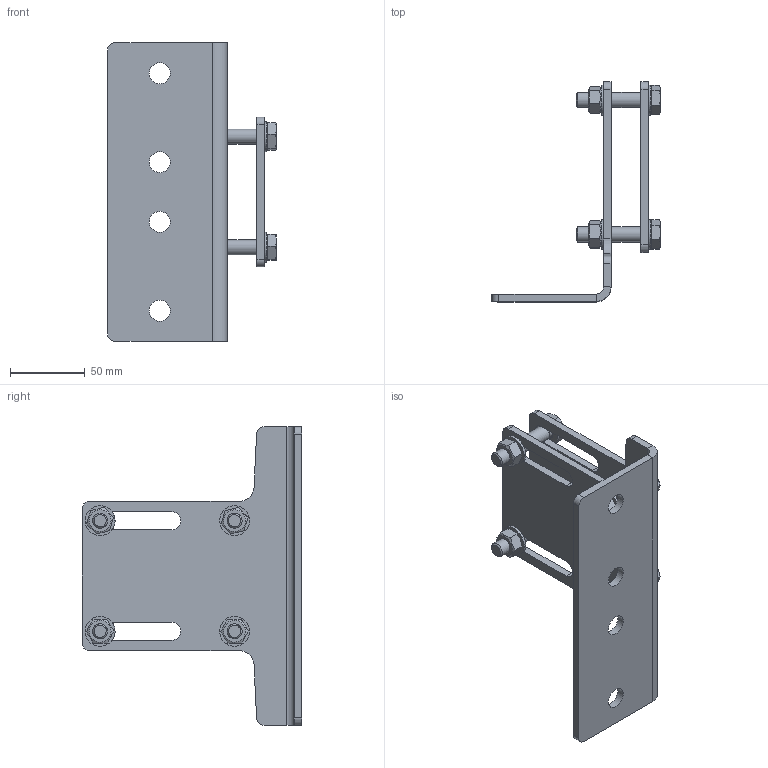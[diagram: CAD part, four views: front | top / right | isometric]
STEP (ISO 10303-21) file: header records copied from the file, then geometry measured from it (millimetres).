
FILE_DESCRIPTION(/* description */ (''),/* implementation_level */ '2;1');
FILE_NAME(/* name */ 'D:\VDV Techniek\Documents\Inventor\_ISP_Products\UDG on FlatBar\UDG FlatBarKit Clamped\STP\FlatBar 20x80mm-out-Mounting bracket.stp',/* time_stamp */ '2022-12-29T15:53:39+01:00',/* author */ ('jos'),/* organization */ (''),/* preprocessor_version */ 'ST-DEVELOPER v15.2',/* originating_system */ 'Autodesk Inventor 2014',/* authorisation */ '');
FILE_SCHEMA (('AUTOMOTIVE_DESIGN { 1 0 10303 214 3 1 1 }'));
Length unit declared in the file: millimetre
Products named in the file (6): UDG_Mounting_Bracket_universal_HDG; UDG_Counter_Plate_universal_HDG; ISO 4032 - M10DIN EN; DIN 126 - 11; DIN 933 - M10  x 50; FlatBar 20x80mm-out-Mounting bracket
Assembly tree (18 placements, depth 2):
  FlatBar 20x80mm-out-Mounting bracket
    UDG_Mounting_Bracket_universal_HDG
    UDG_Counter_Plate_universal_HDG
    ISO 4032 - M10DIN EN  x4
    DIN 126 - 11  x8
    DIN 933 - M10  x 50  x4
Bounding box: 113.1 x 147 x 200 mm (x, y, z)
Volume: 228774.5 mm3; surface area: 108236.1 mm2
Topology: 18 solids, 18 shells, 228 faces, 504 edges, 320 vertices
Faces by surface type: plane 118, cylinder 62, cone 48
Full cylindrical faces by diameter (mm): 8.376 x4, 9.188 x4, 10 x4, 11 x8, 12 x4, 14 x4, 15.4 x4, 20 x8
Entity records: 3034 total; most frequent: CARTESIAN_POINT 538, DIRECTION 520, ORIENTED_EDGE 434, EDGE_CURVE 217, AXIS2_PLACEMENT_3D 205, VERTEX_POINT 151, EDGE_LOOP 148, LINE 110
